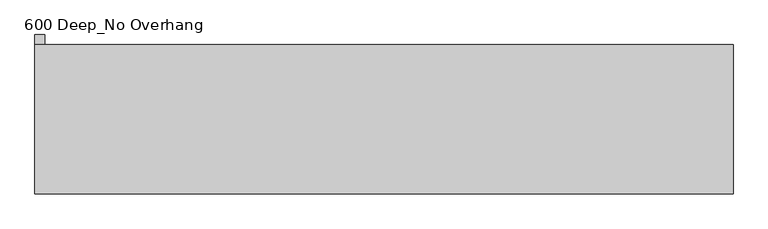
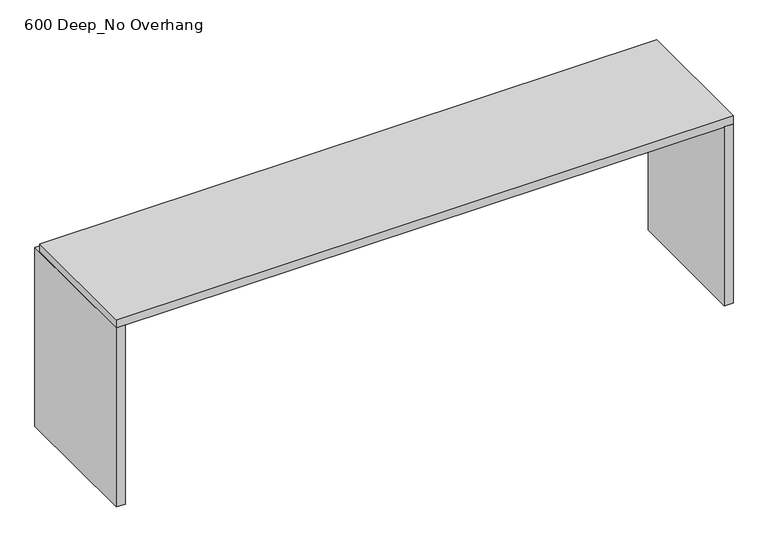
"""IFC4 building model written with IfcOpenShell, lengths in millimetres: furniture geometry, Benchtop_Optional Hole_I Shaped_CAS : 600 Deep_No Overhang."""

from ifc_helpers import new_model, si_unit, frame, origin, origin_with_axes, place, context, project, spatial, polyline, outline, extrude, source, transform, mapped, element, save


def furniture_600_deep_no_overhang_a1c66d1b(model_context):
    return source(origin(), model_context, "Body", "SweptSolid", [
        extrude(outline(polyline([(1605.8111924, -600.0), (1605.8111924, 0.0), (1645.8111924, 0.0), (1645.8111924, -600.0), (1605.8111924, -600.0)])), origin_with_axes(), (0.0, 0.0, 1.0), 860.0),
        extrude(outline(polyline([(-1115.2996736, 40.0), (-1115.2996736, -600.0), (-1155.2996736, -600.0), (-1155.2996736, 40.0), (-1115.2996736, 40.0)])), origin_with_axes(), (0.0, 0.0, 1.0), 860.0),
        extrude(outline(polyline([(1645.8111924, 0.0), (1645.8111924, -600.0), (-1155.2996736, -600.0), (-1155.2996736, 0.0), (1645.8111924, 0.0)])), frame((0.0, 0.0, 860.0), z_axis=(0.0, 0.0, 1.0), x_axis=(1.0, 0.0, 0.0)), (0.0, 0.0, 1.0), 40.0),
    ])


if __name__ == "__main__":
    model = new_model("IFC4")
    model_context = context("Model", 3, world=origin())
    ifc_project = project(units=[si_unit("LENGTHUNIT", "METRE", prefix="MILLI")], contexts=[model_context])
    site = spatial("IfcSite", under=ifc_project)
    building = spatial("IfcBuilding", under=site)
    placement = place(None, origin())
    furniture_600_deep_no_overhang_shape = furniture_600_deep_no_overhang_a1c66d1b(model_context)
    element("IfcFurniture", 1, ObjectType="Benchtop_Optional Hole_I Shaped_CAS : 600 Deep_No Overhang", at=placement, inside=building, context=model_context, shape_type="MappedRepresentation", body=[
        mapped(furniture_600_deep_no_overhang_shape, transform((0.0, 0.0, 0.0), x_axis=(1.0, 0.0, 0.0), y_axis=(0.0, 1.0, 0.0), z_axis=(0.0, 0.0, 1.0))),
    ])
    save(model, "model.ifc")
